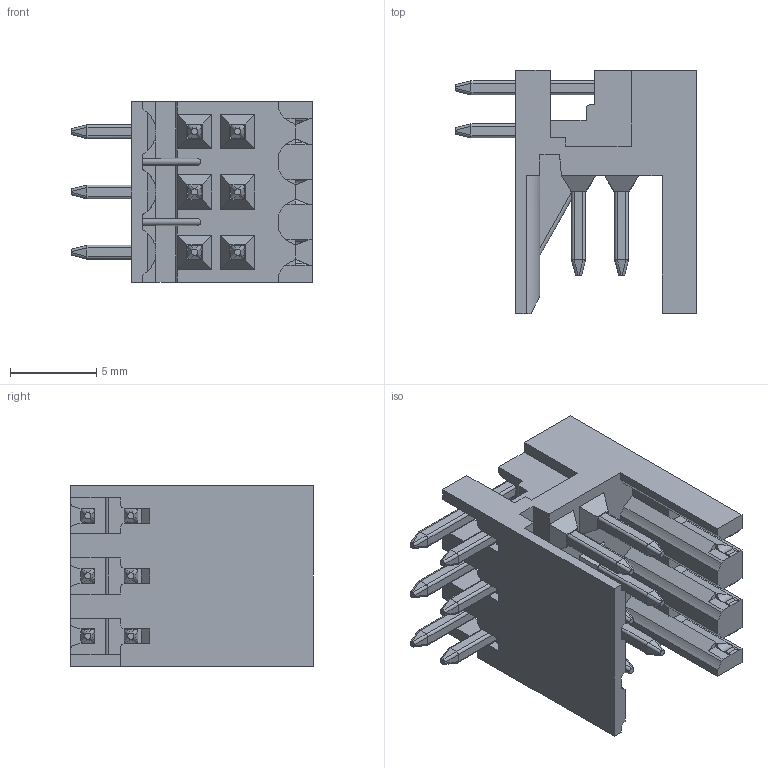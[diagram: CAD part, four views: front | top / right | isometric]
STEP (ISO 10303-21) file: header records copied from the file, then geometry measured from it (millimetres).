
FILE_DESCRIPTION((''),'2;1');
FILE_NAME('VX0610310000G','2021-05-13T',('renkang.li'),(''),'CREO PARAMETRIC BY PTC INC, 2016260','CREO PARAMETRIC BY PTC INC, 2016260','');
FILE_SCHEMA(('CONFIG_CONTROL_DESIGN'));
Length unit declared in the file: millimetre
Products named in the file (1): VX0610310000G
Bounding box: 14 x 14.1 x 10.5 mm (x, y, z)
Volume: 653.2 mm3; surface area: 1566.7 mm2
Topology: 1 solids, 13 shells, 821 faces, 2266 edges, 1488 vertices
Faces by surface type: plane 564, cylinder 161, torus 72, extrusion 24
Entity records: 27991 total; most frequent: CARTESIAN_POINT 7704, ORIENTED_EDGE 4532, DIRECTION 3692, EDGE_CURVE 2266, VECTOR 1570, LINE 1546, VERTEX_POINT 1488, AXIS2_PLACEMENT_3D 1061
